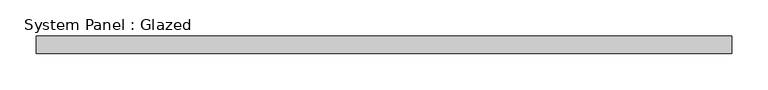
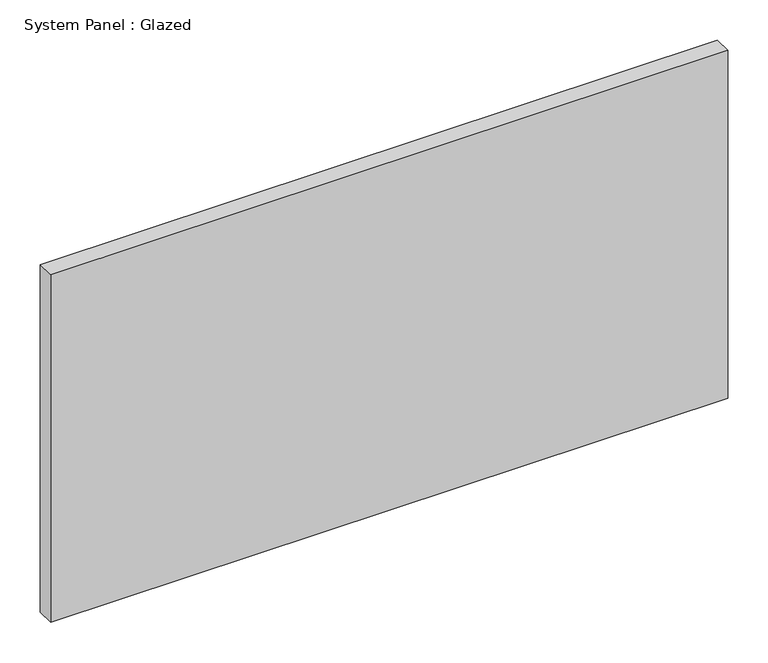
"""IFC4 building model written with IfcOpenShell, lengths in millimetres: plate geometry, System Panel : Glazed."""

from ifc_helpers import new_model, si_unit, origin, origin_with_axes, place, context, project, spatial, polyline, outline, extrude, source, transform, mapped, element, save


def system_panel_glazed_0784fe47(model_context):
    return source(origin(), model_context, "Body", "SweptSolid", [
        extrude(outline(polyline([(483.3333332, 24.5), (-483.3333332, 24.5), (-483.3333332, 49.5), (483.3333332, 49.5), (483.3333332, 24.5)])), origin_with_axes(), (0.0, 0.0, 1.0), 525.0),
    ])


if __name__ == "__main__":
    model = new_model("IFC4")
    model_context = context("Model", 3, world=origin())
    ifc_project = project(units=[si_unit("LENGTHUNIT", "METRE", prefix="MILLI")], contexts=[model_context])
    site = spatial("IfcSite", under=ifc_project)
    building = spatial("IfcBuilding", under=site)
    placement = place(None, origin())
    system_panel_glazed_shape = system_panel_glazed_0784fe47(model_context)
    element("IfcPlate", 1, ObjectType="System Panel : Glazed", at=placement, inside=building, context=model_context, shape_type="MappedRepresentation", body=[
        mapped(system_panel_glazed_shape, transform((0.0, 0.0, 0.0), x_axis=(1.0, 0.0, 0.0), y_axis=(0.0, 1.0, 0.0), z_axis=(0.0, 0.0, 1.0))),
    ])
    save(model, "model.ifc")
